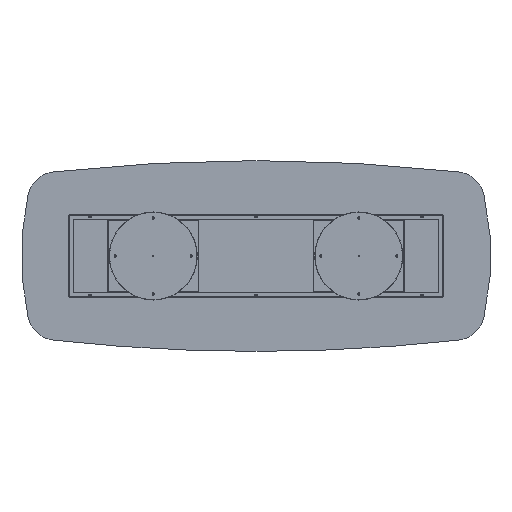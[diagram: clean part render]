
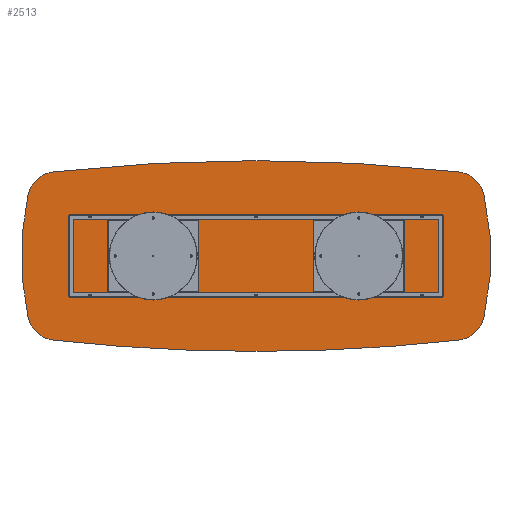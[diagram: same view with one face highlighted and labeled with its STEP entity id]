
A CAD part, front view. The second image highlights one B-rep face of the part: STEP entity #2513.
In plain terms, the highlighted planar face has unit normal (0, -1, 0).
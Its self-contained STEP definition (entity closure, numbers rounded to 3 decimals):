
#250 = VERTEX_POINT ( 'NONE', #1526 ) ;
#477 = DIRECTION ( 'NONE',  ( 0., 0., 1. ) ) ;
#599 = CARTESIAN_POINT ( 'NONE',  ( 0., 0., 11850. ) ) ;
#743 = CARTESIAN_POINT ( 'NONE',  ( -1358.173, 0., -374.785 ) ) ;
#1295 = DIRECTION ( 'NONE',  ( 0., 1., 0. ) ) ;
#1452 = CARTESIAN_POINT ( 'NONE',  ( -1358.173, 0., 374.785 ) ) ;
#1497 = CIRCLE ( 'NONE', #6810, 200. ) ;
#1526 = CARTESIAN_POINT ( 'NONE',  ( -1380.257, 0., -573.562 ) ) ;
#1560 = AXIS2_PLACEMENT_3D ( 'NONE', #10687, #6260, #2493 ) ;
#1793 = VERTEX_POINT ( 'NONE', #11256 ) ;
#1857 = VERTEX_POINT ( 'NONE', #7697 ) ;
#2058 = CIRCLE ( 'NONE', #10505, 12500. ) ;
#2112 = EDGE_CURVE ( 'NONE', #6351, #1857, #5873, .T. ) ;
#2201 = CARTESIAN_POINT ( 'NONE',  ( 0., 0., -650. ) ) ;
#2336 = EDGE_CURVE ( 'NONE', #1793, #12115, #8619, .T. ) ;
#2493 = DIRECTION ( 'NONE',  ( 0., 0., 1. ) ) ;
#2513 = ADVANCED_FACE ( 'NONE', ( #6149 ), #7194, .F. ) ;
#2740 = DIRECTION ( 'NONE',  ( 0., 1., 0. ) ) ;
#2839 = DIRECTION ( 'NONE',  ( 0., 1., 0. ) ) ;
#2981 = EDGE_CURVE ( 'NONE', #12026, #11160, #4897, .T. ) ;
#3139 = DIRECTION ( 'NONE',  ( 0., 0., 1. ) ) ;
#3310 = AXIS2_PLACEMENT_3D ( 'NONE', #7700, #1295, #3139 ) ;
#3596 = AXIS2_PLACEMENT_3D ( 'NONE', #11397, #2839, #4868 ) ;
#3813 = AXIS2_PLACEMENT_3D ( 'NONE', #743, #4487, #8311 ) ;
#4009 = CIRCLE ( 'NONE', #3813, 200. ) ;
#4346 = DIRECTION ( 'NONE',  ( 0., 0., 1. ) ) ;
#4487 = DIRECTION ( 'NONE',  ( 0., -1., 0. ) ) ;
#4612 = CIRCLE ( 'NONE', #9918, 200. ) ;
#4868 = DIRECTION ( 'NONE',  ( 0., 0., 1. ) ) ;
#4897 = CIRCLE ( 'NONE', #1560, 1900. ) ;
#5025 = DIRECTION ( 'NONE',  ( 0., -1., 0. ) ) ;
#5161 = ORIENTED_EDGE ( 'NONE', *, *, #2981, .F. ) ;
#5481 = CARTESIAN_POINT ( 'NONE',  ( -1380.257, 0., 573.562 ) ) ;
#5765 = ORIENTED_EDGE ( 'NONE', *, *, #9964, .T. ) ;
#5873 = CIRCLE ( 'NONE', #6665, 1900. ) ;
#5917 = CARTESIAN_POINT ( 'NONE',  ( 1358.173, 0., 374.785 ) ) ;
#5967 = AXIS2_PLACEMENT_3D ( 'NONE', #11751, #6103, #7082 ) ;
#6103 = DIRECTION ( 'NONE',  ( 0., -1., 0. ) ) ;
#6149 = FACE_OUTER_BOUND ( 'NONE', #11899, .T. ) ;
#6260 = DIRECTION ( 'NONE',  ( 0., 1., 0. ) ) ;
#6351 = VERTEX_POINT ( 'NONE', #10976 ) ;
#6665 = AXIS2_PLACEMENT_3D ( 'NONE', #10186, #2740, #7544 ) ;
#6810 = AXIS2_PLACEMENT_3D ( 'NONE', #5917, #8622, #6842 ) ;
#6842 = DIRECTION ( 'NONE',  ( 0., 0., 1. ) ) ;
#6861 = ORIENTED_EDGE ( 'NONE', *, *, #8402, .T. ) ;
#6924 = CARTESIAN_POINT ( 'NONE',  ( -1553.252, 0., 418.877 ) ) ;
#7082 = DIRECTION ( 'NONE',  ( 0., 0., 1. ) ) ;
#7136 = CIRCLE ( 'NONE', #5967, 200. ) ;
#7194 = PLANE ( 'NONE',  #10782 ) ;
#7313 = DIRECTION ( 'NONE',  ( 0., 1., 0. ) ) ;
#7544 = DIRECTION ( 'NONE',  ( 0., 0., 1. ) ) ;
#7563 = CARTESIAN_POINT ( 'NONE',  ( -1553.252, 0., -418.877 ) ) ;
#7697 = CARTESIAN_POINT ( 'NONE',  ( 1553.252, 0., -418.877 ) ) ;
#7700 = CARTESIAN_POINT ( 'NONE',  ( 0., 0., 11850. ) ) ;
#8210 = EDGE_CURVE ( 'NONE', #8596, #11268, #8896, .T. ) ;
#8311 = DIRECTION ( 'NONE',  ( 0., 0., 1. ) ) ;
#8317 = ORIENTED_EDGE ( 'NONE', *, *, #10735, .T. ) ;
#8402 = EDGE_CURVE ( 'NONE', #1793, #1857, #7136, .T. ) ;
#8596 = VERTEX_POINT ( 'NONE', #5481 ) ;
#8619 = CIRCLE ( 'NONE', #3310, 12500. ) ;
#8622 = DIRECTION ( 'NONE',  ( 0., -1., 0. ) ) ;
#8785 = DIRECTION ( 'NONE',  ( 0., 0., 1. ) ) ;
#8856 = DIRECTION ( 'NONE',  ( 0., 1., 0. ) ) ;
#8869 = CARTESIAN_POINT ( 'NONE',  ( 1380.257, 0., 573.562 ) ) ;
#8896 = CIRCLE ( 'NONE', #3596, 12500. ) ;
#9038 = ORIENTED_EDGE ( 'NONE', *, *, #2336, .F. ) ;
#9918 = AXIS2_PLACEMENT_3D ( 'NONE', #1452, #5025, #8785 ) ;
#9964 = EDGE_CURVE ( 'NONE', #12026, #250, #4009, .T. ) ;
#10186 = CARTESIAN_POINT ( 'NONE',  ( -300., 0., 0. ) ) ;
#10297 = ORIENTED_EDGE ( 'NONE', *, *, #10427, .F. ) ;
#10427 = EDGE_CURVE ( 'NONE', #12115, #250, #2058, .T. ) ;
#10505 = AXIS2_PLACEMENT_3D ( 'NONE', #599, #7313, #4346 ) ;
#10634 = ORIENTED_EDGE ( 'NONE', *, *, #11638, .T. ) ;
#10687 = CARTESIAN_POINT ( 'NONE',  ( 300., 0., 0. ) ) ;
#10735 = EDGE_CURVE ( 'NONE', #8596, #11160, #4612, .T. ) ;
#10782 = AXIS2_PLACEMENT_3D ( 'NONE', #11682, #8856, #477 ) ;
#10976 = CARTESIAN_POINT ( 'NONE',  ( 1553.252, 0., 418.877 ) ) ;
#11160 = VERTEX_POINT ( 'NONE', #6924 ) ;
#11256 = CARTESIAN_POINT ( 'NONE',  ( 1380.257, 0., -573.562 ) ) ;
#11268 = VERTEX_POINT ( 'NONE', #8869 ) ;
#11397 = CARTESIAN_POINT ( 'NONE',  ( 0., 0., -11850. ) ) ;
#11499 = ORIENTED_EDGE ( 'NONE', *, *, #8210, .F. ) ;
#11638 = EDGE_CURVE ( 'NONE', #6351, #11268, #1497, .T. ) ;
#11682 = CARTESIAN_POINT ( 'NONE',  ( -150., 0., 5925. ) ) ;
#11751 = CARTESIAN_POINT ( 'NONE',  ( 1358.173, 0., -374.785 ) ) ;
#11899 = EDGE_LOOP ( 'NONE', ( #11499, #8317, #5161, #5765, #10297, #9038, #6861, #12008, #10634 ) ) ;
#12008 = ORIENTED_EDGE ( 'NONE', *, *, #2112, .F. ) ;
#12026 = VERTEX_POINT ( 'NONE', #7563 ) ;
#12115 = VERTEX_POINT ( 'NONE', #2201 ) ;
